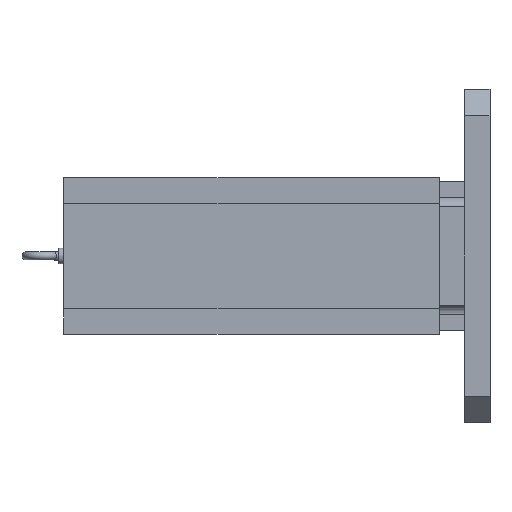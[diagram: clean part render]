
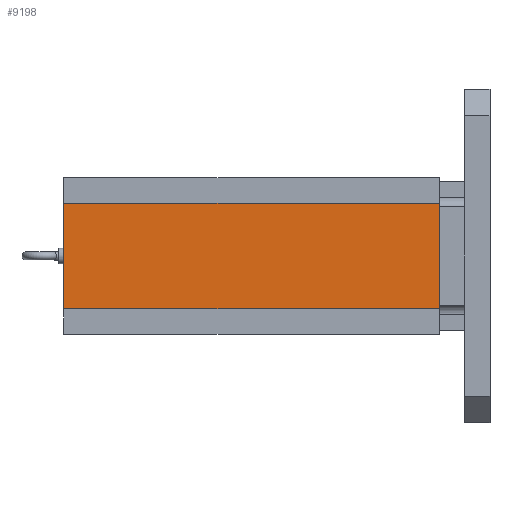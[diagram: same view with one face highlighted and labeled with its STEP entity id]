
A CAD part, left-side view. The second image highlights one B-rep face of the part: STEP entity #9198.
In plain terms, the highlighted planar face has unit normal (-1, 0, 0).
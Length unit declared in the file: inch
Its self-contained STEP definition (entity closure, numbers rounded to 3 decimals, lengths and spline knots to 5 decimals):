
#35 = CARTESIAN_POINT ( 'NONE',  ( -4.606, 23.62205, -3.121 ) ) ;
#453 = VECTOR ( 'NONE', #3210, 39.37008 ) ;
#753 = DIRECTION ( 'NONE',  ( 0., 0., 1. ) ) ;
#1439 = CARTESIAN_POINT ( 'NONE',  ( -4.606, 1.5, -3.121 ) ) ;
#1944 = VERTEX_POINT ( 'NONE', #2237 ) ;
#2237 = CARTESIAN_POINT ( 'NONE',  ( -4.606, 1.5, 3.121 ) ) ;
#2248 = ORIENTED_EDGE ( 'NONE', *, *, #9490, .F. ) ;
#2759 = DIRECTION ( 'NONE',  ( 0., 0., -1. ) ) ;
#3049 = EDGE_LOOP ( 'NONE', ( #10739, #9865, #2248, #6632 ) ) ;
#3138 = DIRECTION ( 'NONE',  ( 0., -1., 0. ) ) ;
#3210 = DIRECTION ( 'NONE',  ( 0., 0., -1. ) ) ;
#3248 = EDGE_CURVE ( 'NONE', #5038, #1944, #7999, .T. ) ;
#3536 = DIRECTION ( 'NONE',  ( 1., 0., 0. ) ) ;
#4062 = CARTESIAN_POINT ( 'NONE',  ( -4.606, 1.5, -3.121 ) ) ;
#4371 = DIRECTION ( 'NONE',  ( 0., -1., 0. ) ) ;
#4441 = FACE_OUTER_BOUND ( 'NONE', #3049, .T. ) ;
#4873 = LINE ( 'NONE', #10443, #7689 ) ;
#4956 = VECTOR ( 'NONE', #753, 39.37008 ) ;
#5038 = VERTEX_POINT ( 'NONE', #7423 ) ;
#6032 = LINE ( 'NONE', #8880, #4956 ) ;
#6261 = VERTEX_POINT ( 'NONE', #7909 ) ;
#6632 = ORIENTED_EDGE ( 'NONE', *, *, #8696, .T. ) ;
#7117 = AXIS2_PLACEMENT_3D ( 'NONE', #35, #3536, #2759 ) ;
#7159 = EDGE_CURVE ( 'NONE', #1944, #8421, #10274, .T. ) ;
#7423 = CARTESIAN_POINT ( 'NONE',  ( -4.606, 23.62205, 3.121 ) ) ;
#7689 = VECTOR ( 'NONE', #3138, 39.37008 ) ;
#7909 = CARTESIAN_POINT ( 'NONE',  ( -4.606, 23.62205, -3.121 ) ) ;
#7999 = LINE ( 'NONE', #9825, #8474 ) ;
#8295 = PLANE ( 'NONE',  #7117 ) ;
#8421 = VERTEX_POINT ( 'NONE', #4062 ) ;
#8474 = VECTOR ( 'NONE', #4371, 39.37008 ) ;
#8696 = EDGE_CURVE ( 'NONE', #6261, #8421, #4873, .T. ) ;
#8880 = CARTESIAN_POINT ( 'NONE',  ( -4.606, 23.62205, -3.121 ) ) ;
#9198 = ADVANCED_FACE ( 'NONE', ( #4441 ), #8295, .F. ) ;
#9490 = EDGE_CURVE ( 'NONE', #6261, #5038, #6032, .T. ) ;
#9825 = CARTESIAN_POINT ( 'NONE',  ( -4.606, 23.62205, 3.121 ) ) ;
#9865 = ORIENTED_EDGE ( 'NONE', *, *, #3248, .F. ) ;
#10274 = LINE ( 'NONE', #1439, #453 ) ;
#10443 = CARTESIAN_POINT ( 'NONE',  ( -4.606, 23.62205, -3.121 ) ) ;
#10739 = ORIENTED_EDGE ( 'NONE', *, *, #7159, .F. ) ;
